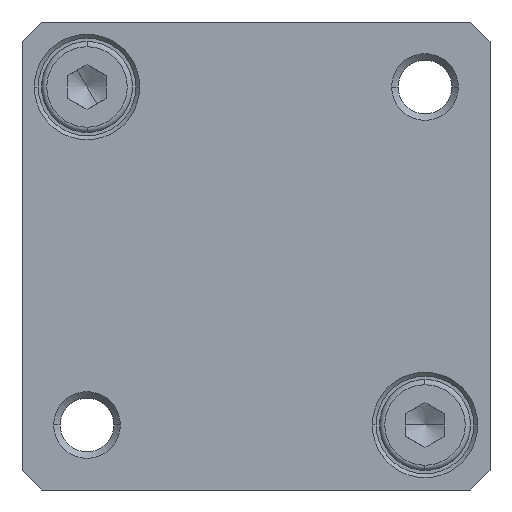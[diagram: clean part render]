
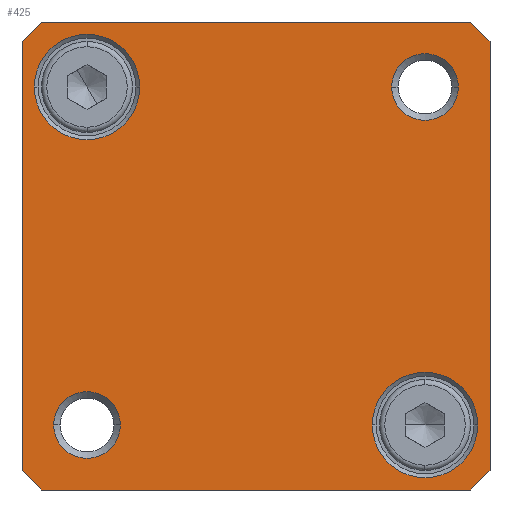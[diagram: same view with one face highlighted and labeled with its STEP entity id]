
A CAD part, front view. The second image highlights one B-rep face of the part: STEP entity #425.
In plain terms, the highlighted planar face has unit normal (0, -1, 0).
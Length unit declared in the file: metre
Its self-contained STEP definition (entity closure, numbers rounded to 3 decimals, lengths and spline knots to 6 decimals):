
#425=ADVANCED_FACE('',(#687,#688,#689,#690,#691),#692,.F.);
#687=FACE_OUTER_BOUND('',#1202,.T.);
#688=FACE_BOUND('',#1203,.T.);
#689=FACE_BOUND('',#1204,.T.);
#690=FACE_BOUND('',#1205,.T.);
#691=FACE_BOUND('',#1206,.T.);
#692=PLANE('',#1207);
#1202=EDGE_LOOP('',(#1887,#1888,#1889,#1890,#1891,#1892,#1893,#1894));
#1203=EDGE_LOOP('',(#1895,#1896));
#1204=EDGE_LOOP('',(#1897,#1898));
#1205=EDGE_LOOP('',(#1899,#1900));
#1206=EDGE_LOOP('',(#1901,#1902));
#1207=AXIS2_PLACEMENT_3D('',#1903,#1904,#1905);
#1887=ORIENTED_EDGE('',*,*,#3597,.F.);
#1888=ORIENTED_EDGE('',*,*,#3598,.F.);
#1889=ORIENTED_EDGE('',*,*,#3599,.F.);
#1890=ORIENTED_EDGE('',*,*,#3600,.F.);
#1891=ORIENTED_EDGE('',*,*,#3601,.F.);
#1892=ORIENTED_EDGE('',*,*,#3602,.F.);
#1893=ORIENTED_EDGE('',*,*,#3603,.F.);
#1894=ORIENTED_EDGE('',*,*,#3604,.F.);
#1895=ORIENTED_EDGE('',*,*,#3605,.F.);
#1896=ORIENTED_EDGE('',*,*,#3527,.F.);
#1897=ORIENTED_EDGE('',*,*,#3606,.F.);
#1898=ORIENTED_EDGE('',*,*,#3499,.F.);
#1899=ORIENTED_EDGE('',*,*,#3607,.F.);
#1900=ORIENTED_EDGE('',*,*,#3503,.F.);
#1901=ORIENTED_EDGE('',*,*,#3608,.F.);
#1902=ORIENTED_EDGE('',*,*,#3535,.F.);
#1903=CARTESIAN_POINT('',(0.,-0.00675,0.0));
#1904=DIRECTION('',(-0.0,1.0,0.0));
#1905=DIRECTION('',(1.0,0.0,0.0));
#3499=EDGE_CURVE('',#4179,#4182,#4183,.T.);
#3503=EDGE_CURVE('',#4187,#4190,#4191,.T.);
#3527=EDGE_CURVE('',#4227,#4229,#4230,.T.);
#3535=EDGE_CURVE('',#4241,#4243,#4244,.T.);
#3597=EDGE_CURVE('',#4353,#4354,#4355,.T.);
#3598=EDGE_CURVE('',#4356,#4353,#4357,.T.);
#3599=EDGE_CURVE('',#4358,#4356,#4359,.T.);
#3600=EDGE_CURVE('',#4360,#4358,#4361,.T.);
#3601=EDGE_CURVE('',#4362,#4360,#4363,.T.);
#3602=EDGE_CURVE('',#4364,#4362,#4365,.T.);
#3603=EDGE_CURVE('',#4366,#4364,#4367,.T.);
#3604=EDGE_CURVE('',#4354,#4366,#4368,.T.);
#3605=EDGE_CURVE('',#4229,#4227,#4369,.T.);
#3606=EDGE_CURVE('',#4182,#4179,#4370,.T.);
#3607=EDGE_CURVE('',#4190,#4187,#4371,.T.);
#3608=EDGE_CURVE('',#4243,#4241,#4372,.T.);
#4179=VERTEX_POINT('',#5083);
#4182=VERTEX_POINT('',#5087);
#4183=CIRCLE('',#5088,0.002567);
#4187=VERTEX_POINT('',#5093);
#4190=VERTEX_POINT('',#5097);
#4191=CIRCLE('',#5098,0.002567);
#4227=VERTEX_POINT('',#5145);
#4229=VERTEX_POINT('',#5148);
#4230=CIRCLE('',#5149,0.00405);
#4241=VERTEX_POINT('',#5163);
#4243=VERTEX_POINT('',#5166);
#4244=CIRCLE('',#5167,0.00405);
#4353=VERTEX_POINT('',#5469);
#4354=VERTEX_POINT('',#5470);
#4355=LINE('',#5471,#5472);
#4356=VERTEX_POINT('',#5473);
#4357=LINE('',#5474,#5475);
#4358=VERTEX_POINT('',#5476);
#4359=LINE('',#5477,#5478);
#4360=VERTEX_POINT('',#5479);
#4361=LINE('',#5480,#5481);
#4362=VERTEX_POINT('',#5482);
#4363=LINE('',#5483,#5484);
#4364=VERTEX_POINT('',#5485);
#4365=LINE('',#5486,#5487);
#4366=VERTEX_POINT('',#5488);
#4367=LINE('',#5489,#5490);
#4368=LINE('',#5491,#5492);
#4369=CIRCLE('',#5493,0.00405);
#4370=CIRCLE('',#5494,0.002567);
#4371=CIRCLE('',#5495,0.002567);
#4372=CIRCLE('',#5496,0.00405);
#5083=CARTESIAN_POINT('',(0.010433,-0.00675,0.013));
#5087=CARTESIAN_POINT('',(0.015567,-0.00675,0.013));
#5088=AXIS2_PLACEMENT_3D('',#6924,#6925,#6926);
#5093=CARTESIAN_POINT('',(-0.015567,-0.00675,-0.013));
#5097=CARTESIAN_POINT('',(-0.010433,-0.00675,-0.013));
#5098=AXIS2_PLACEMENT_3D('',#6932,#6933,#6934);
#5145=CARTESIAN_POINT('',(-0.01705,-0.00675,0.013));
#5148=CARTESIAN_POINT('',(-0.00895,-0.00675,0.013));
#5149=AXIS2_PLACEMENT_3D('',#6980,#6981,#6982);
#5163=CARTESIAN_POINT('',(0.00895,-0.00675,-0.013));
#5166=CARTESIAN_POINT('',(0.01705,-0.00675,-0.013));
#5167=AXIS2_PLACEMENT_3D('',#6996,#6997,#6998);
#5469=CARTESIAN_POINT('',(-0.0165,-0.00675,0.018));
#5470=CARTESIAN_POINT('',(0.0165,-0.00675,0.018));
#5471=CARTESIAN_POINT('',(-0.0165,-0.00675,0.018));
#5472=VECTOR('',#7090,0.033);
#5473=CARTESIAN_POINT('',(-0.018,-0.00675,0.0165));
#5474=CARTESIAN_POINT('',(-0.018,-0.00675,0.0165));
#5475=VECTOR('',#7091,0.002121);
#5476=CARTESIAN_POINT('',(-0.018,-0.00675,-0.0165));
#5477=CARTESIAN_POINT('',(-0.018,-0.00675,-0.0165));
#5478=VECTOR('',#7092,0.033);
#5479=CARTESIAN_POINT('',(-0.0165,-0.00675,-0.018));
#5480=CARTESIAN_POINT('',(-0.0165,-0.00675,-0.018));
#5481=VECTOR('',#7093,0.002121);
#5482=CARTESIAN_POINT('',(0.0165,-0.00675,-0.018));
#5483=CARTESIAN_POINT('',(0.0165,-0.00675,-0.018));
#5484=VECTOR('',#7094,0.033);
#5485=CARTESIAN_POINT('',(0.018,-0.00675,-0.0165));
#5486=CARTESIAN_POINT('',(0.018,-0.00675,-0.0165));
#5487=VECTOR('',#7095,0.002121);
#5488=CARTESIAN_POINT('',(0.018,-0.00675,0.0165));
#5489=CARTESIAN_POINT('',(0.018,-0.00675,0.0165));
#5490=VECTOR('',#7096,0.033);
#5491=CARTESIAN_POINT('',(0.0165,-0.00675,0.018));
#5492=VECTOR('',#7097,0.002121);
#5493=AXIS2_PLACEMENT_3D('',#7098,#7099,#7100);
#5494=AXIS2_PLACEMENT_3D('',#7101,#7102,#7103);
#5495=AXIS2_PLACEMENT_3D('',#7104,#7105,#7106);
#5496=AXIS2_PLACEMENT_3D('',#7107,#7108,#7109);
#6924=CARTESIAN_POINT('',(0.013,-0.00675,0.013));
#6925=DIRECTION('',(0.0,-1.0,0.0));
#6926=DIRECTION('',(-1.0,0.0,0.0));
#6932=CARTESIAN_POINT('',(-0.013,-0.00675,-0.013));
#6933=DIRECTION('',(0.0,-1.0,0.0));
#6934=DIRECTION('',(-1.0,0.0,0.0));
#6980=CARTESIAN_POINT('',(-0.013,-0.00675,0.013));
#6981=DIRECTION('',(0.0,-1.0,0.0));
#6982=DIRECTION('',(-1.0,0.0,0.0));
#6996=CARTESIAN_POINT('',(0.013,-0.00675,-0.013));
#6997=DIRECTION('',(0.0,-1.0,0.0));
#6998=DIRECTION('',(-1.0,0.0,0.0));
#7090=DIRECTION('',(1.0,0.0,0.0));
#7091=DIRECTION('',(0.707,0.0,0.707));
#7092=DIRECTION('',(0.0,0.0,1.0));
#7093=DIRECTION('',(-0.707,0.0,0.707));
#7094=DIRECTION('',(-1.0,0.0,0.0));
#7095=DIRECTION('',(-0.707,0.0,-0.707));
#7096=DIRECTION('',(0.0,0.0,-1.0));
#7097=DIRECTION('',(0.707,0.0,-0.707));
#7098=CARTESIAN_POINT('',(-0.013,-0.00675,0.013));
#7099=DIRECTION('',(0.0,-1.0,0.0));
#7100=DIRECTION('',(-1.0,0.0,0.0));
#7101=CARTESIAN_POINT('',(0.013,-0.00675,0.013));
#7102=DIRECTION('',(0.0,-1.0,0.0));
#7103=DIRECTION('',(-1.0,0.0,0.0));
#7104=CARTESIAN_POINT('',(-0.013,-0.00675,-0.013));
#7105=DIRECTION('',(0.0,-1.0,0.0));
#7106=DIRECTION('',(-1.0,0.0,0.0));
#7107=CARTESIAN_POINT('',(0.013,-0.00675,-0.013));
#7108=DIRECTION('',(0.0,-1.0,0.0));
#7109=DIRECTION('',(-1.0,0.0,0.0));
